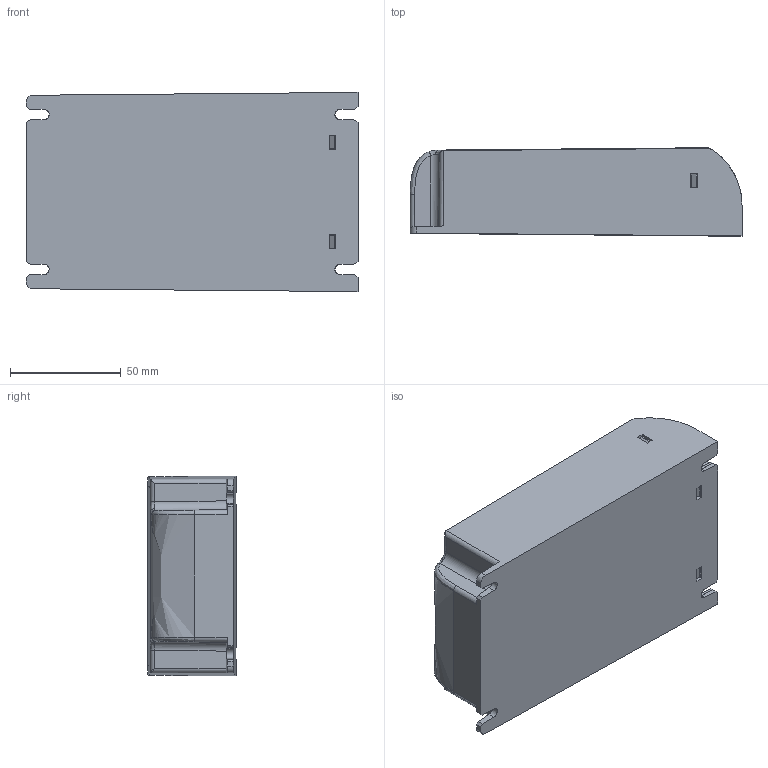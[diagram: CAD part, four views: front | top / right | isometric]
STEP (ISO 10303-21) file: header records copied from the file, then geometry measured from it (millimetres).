
FILE_DESCRIPTION((''),'2;1');
FILE_NAME('ASSY_150X90X40_ASM','2019-02-27T',('JACKY.LEE'),(''),'PRO/ENGINEER BY PARAMETRIC TECHNOLOGY CORPORATION, 2009440','PRO/ENGINEER BY PARAMETRIC TECHNOLOGY CORPORATION, 2009440','');
FILE_SCHEMA(('CONFIG_CONTROL_DESIGN'));
Length unit declared in the file: millimetre
Products named in the file (10): HOUSING_150X90X40; PCB_130W; 804_103; 250-211; HS_3347122001; S-PWB; ASSY_PCB_130W_ASM; COVER_150X90X40; LABEL; ASSY_150X90X40_ASM
Assembly tree (9 placements, depth 3):
  ASSY_150X90X40_ASM
    HOUSING_150X90X40
    ASSY_PCB_130W_ASM
      PCB_130W
      804_103
      250-211
      HS_3347122001
      S-PWB
    COVER_150X90X40
    LABEL
Bounding box: 150 x 39.87 x 90 mm (x, y, z)
Volume: 108152.5 mm3; surface area: 134540.9 mm2
Topology: 8 solids, 8 shells, 900 faces, 2475 edges, 1631 vertices
Faces by surface type: plane 697, cylinder 169, cone 24, bspline 10
Entity records: 30321 total; most frequent: CARTESIAN_POINT 7361, ORIENTED_EDGE 4950, DIRECTION 4343, EDGE_CURVE 2475, VECTOR 2045, LINE 2045, VERTEX_POINT 1631, AXIS2_PLACEMENT_3D 1149
